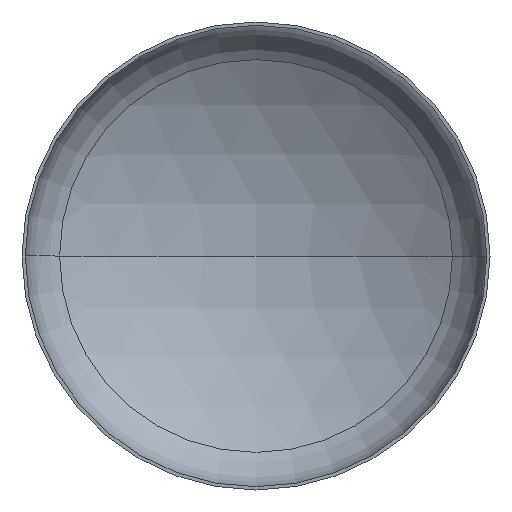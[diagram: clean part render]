
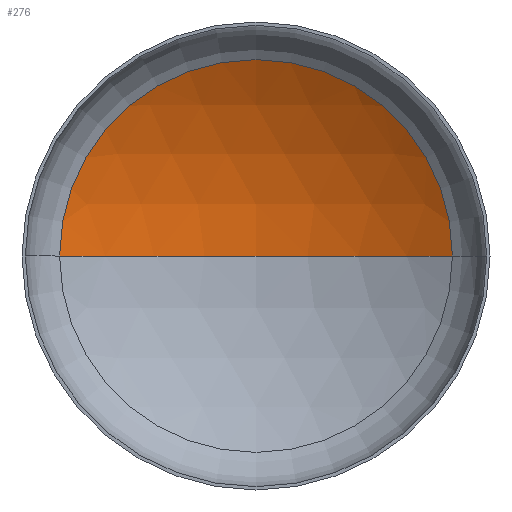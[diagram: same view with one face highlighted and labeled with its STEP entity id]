
A CAD part, front view. The second image highlights one B-rep face of the part: STEP entity #276.
In plain terms, the highlighted spherical face has radius 4000 mm.
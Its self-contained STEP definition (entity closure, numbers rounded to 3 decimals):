
#20 = EDGE_LOOP ( 'NONE', ( #84, #36, #26 ) ) ;
#23 = CARTESIAN_POINT ( 'NONE',  ( 0., 765.606, 0. ) ) ;
#24 = AXIS2_PLACEMENT_3D ( 'NONE', #183, #48, #138 ) ;
#26 = ORIENTED_EDGE ( 'NONE', *, *, #142, .T. ) ;
#27 = VERTEX_POINT ( 'NONE', #339 ) ;
#36 = ORIENTED_EDGE ( 'NONE', *, *, #149, .T. ) ;
#48 = DIRECTION ( 'NONE',  ( 0., 0., -1. ) ) ;
#54 = AXIS2_PLACEMENT_3D ( 'NONE', #208, #378, #207 ) ;
#55 = AXIS2_PLACEMENT_3D ( 'NONE', #169, #337, #186 ) ;
#61 = AXIS2_PLACEMENT_3D ( 'NONE', #23, #396, #362 ) ;
#76 = VERTEX_POINT ( 'NONE', #245 ) ;
#84 = ORIENTED_EDGE ( 'NONE', *, *, #152, .F. ) ;
#126 = VERTEX_POINT ( 'NONE', #210 ) ;
#133 = CIRCLE ( 'NONE', #54, 4000. ) ;
#138 = DIRECTION ( 'NONE',  ( -1., 0., 0. ) ) ;
#142 = EDGE_CURVE ( 'NONE', #76, #27, #385, .T. ) ;
#149 = EDGE_CURVE ( 'NONE', #126, #76, #202, .T. ) ;
#152 = EDGE_CURVE ( 'NONE', #126, #27, #133, .T. ) ;
#169 = CARTESIAN_POINT ( 'NONE',  ( 0., -2640.139, 0. ) ) ;
#177 = FACE_OUTER_BOUND ( 'NONE', #20, .T. ) ;
#183 = CARTESIAN_POINT ( 'NONE',  ( 0., -2640.139, 0. ) ) ;
#186 = DIRECTION ( 'NONE',  ( -1., 0., 0. ) ) ;
#202 = CIRCLE ( 'NONE', #55, 4000. ) ;
#207 = DIRECTION ( 'NONE',  ( 1., 0., 0. ) ) ;
#208 = CARTESIAN_POINT ( 'NONE',  ( 0., -2640.139, 0. ) ) ;
#210 = CARTESIAN_POINT ( 'NONE',  ( 0., 1359.861, 0. ) ) ;
#245 = CARTESIAN_POINT ( 'NONE',  ( 2097.833, 765.606, 0. ) ) ;
#276 = ADVANCED_FACE ( 'NONE', ( #177 ), #301, .F. ) ;
#301 = SPHERICAL_SURFACE ( 'NONE', #24, 4000. ) ;
#337 = DIRECTION ( 'NONE',  ( 0., 0., -1. ) ) ;
#339 = CARTESIAN_POINT ( 'NONE',  ( -2097.833, 765.606, 0. ) ) ;
#362 = DIRECTION ( 'NONE',  ( 1., 0., 0. ) ) ;
#378 = DIRECTION ( 'NONE',  ( 0., 0., 1. ) ) ;
#385 = CIRCLE ( 'NONE', #61, 2097.833 ) ;
#396 = DIRECTION ( 'NONE',  ( 0., -1., 0. ) ) ;
